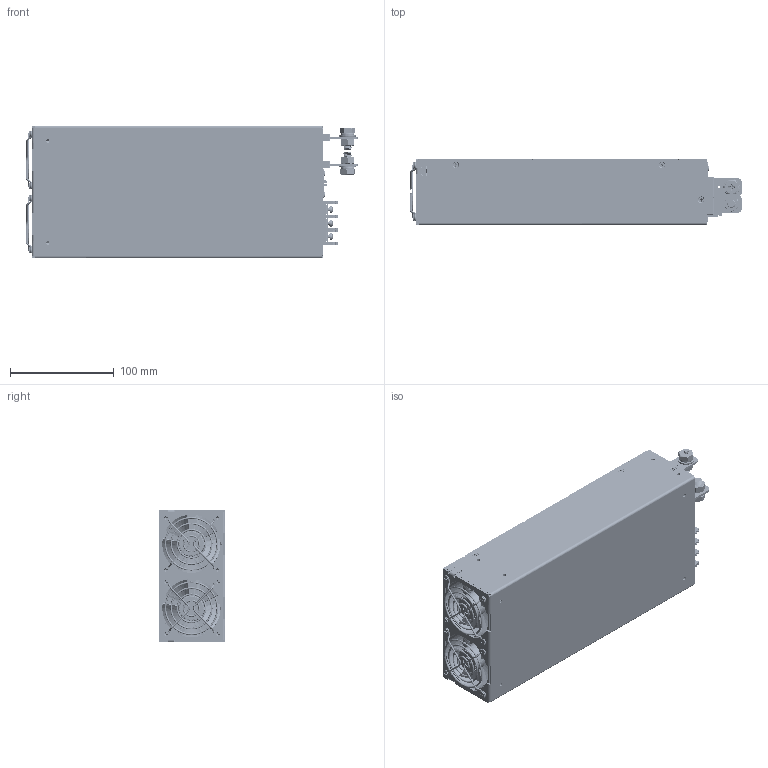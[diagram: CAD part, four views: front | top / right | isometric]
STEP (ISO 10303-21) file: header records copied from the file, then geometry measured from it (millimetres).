
FILE_DESCRIPTION (( 'STEP AP214' ), '1' );
FILE_NAME ('HDA1500 LV PMB.STEP', '2024-11-25T10:01:15', ( '' ), ( '' ), 'SwSTEP 2.0', 'SolidWorks 2022', '' );
FILE_SCHEMA (( 'AUTOMOTIVE_DESIGN' ));
Length unit declared in the file: millimetre
Products named in the file (42): 60x60x25^BOTTOM ASM_ASM 06_ASM 07_HDA1500 LV PMB XP_241001_1; BOTTOM ASM^ASM 06_ASM 07_HDA1500 LV PMB XP_241001_1; PART 03^ASM 04_ASM 07_HDA1500 LV PMB XP_241001_1; PART 18^ASM 05_ASM 06_ASM 07_HDA1500 LV PMB XP_241001_1; 256.2x380.1x0.25^BOTTOM ASM_ASM 06_ASM 07_HDA1500 LV PMB XP_241001_1; PART 04^ASM 04_ASM 07_HDA1500 LV PMB XP_241001_1; PART 11^ASM 06_ASM 07_HDA1500 LV PMB XP_241001_1; ASM 06^ASM 07_HDA1500 LV PMB XP_241001_1; HDA1500 LV PMB; ASM 07^HDA1500 LV PMB XP_241001_1; SCREW 3x4 02^ASM 06_ASM 07_HDA1500 LV PMB XP_241001_1; PART 19^ASM 05_ASM 06_ASM 07_HDA1500 LV PMB XP_241001_1; ASM 04^ASM 07_HDA1500 LV PMB XP_241001_1; SCREW 5x10^BOTTOM ASM_ASM 06_ASM 07_HDA1500 LV PMB XP_241001_1; ASM 01^ASM 02_ASM 03_ASM 04_ASM 07_HDA1500 LV PMB XP_241001_1; PART 13^ASM 06_ASM 07_HDA1500 LV PMB XP_241001_1; PART 05^ASM 03_ASM 04_ASM 07_HDA1500 LV PMB XP_241001_1; TOP ASM^ASM 06_ASM 07_HDA1500 LV PMB XP_241001_1; PART 02^ASM 07_HDA1500 LV PMB XP_241001_1; PART 17^ASM 05_ASM 06_ASM 07_HDA1500 LV PMB XP_241001_1; PART 09^ASM 01_ASM 02_ASM 03_ASM 04_ASM 07_HDA1500 LV PMB XP_241001_1; FG-06^BOTTOM ASM_ASM 06_ASM 07_HDA1500 LV PMB XP_241001_1; ASM 02^ASM 03_ASM 04_ASM 07_HDA1500 LV PMB XP_241001_1; BOTTOM^BOTTOM ASM_ASM 06_ASM 07_HDA1500 LV PMB XP_241001_1; ASM 03^ASM 04_ASM 07_HDA1500 LV PMB XP_241001_1; PART 15^ASM 05_ASM 06_ASM 07_HDA1500 LV PMB XP_241001_1; PART 01^ASM 07_HDA1500 LV PMB XP_241001_1; 250x122x0.8^BOTTOM ASM_ASM 06_ASM 07_HDA1500 LV PMB XP_241001_1; SCREW3x4^ASM 04_ASM 07_HDA1500 LV PMB XP_241001_1; HDA1500 LV PMB XP_241001_1; PART 12^ASM 06_ASM 07_HDA1500 LV PMB XP_241001_1; SCREW M3x6^ASM 07_HDA1500 LV PMB XP_241001_1; PART 16^ASM 05_ASM 06_ASM 07_HDA1500 LV PMB XP_241001_1; PART 10^ASM 01_ASM 02_ASM 03_ASM 04_ASM 07_HDA1500 LV PMB XP_241001_1; PART 14^ASM 06_ASM 07_HDA1500 LV PMB XP_241001_1; PART 06^ASM 03_ASM 04_ASM 07_HDA1500 LV PMB XP_241001_1; 250x121x0.25^TOP ASM_ASM 06_ASM 07_HDA1500 LV PMB XP_241001_1; PART 08^ASM 02_ASM 03_ASM 04_ASM 07_HDA1500 LV PMB XP_241001_1; PART 07^ASM 02_ASM 03_ASM 04_ASM 07_HDA1500 LV PMB XP_241001_1; SCREW 3x6^ASM 06_ASM 07_HDA1500 LV PMB XP_241001_1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
Assembly tree (67 placements, depth 8):
  HDA1500 LV PMB
    HDA1500 LV PMB XP_241001_1
      ASM 07^HDA1500 LV PMB XP_241001_1
        ASM 06^ASM 07_HDA1500 LV PMB XP_241001_1
          BOTTOM ASM^ASM 06_ASM 07_HDA1500 LV PMB XP_241001_1
            BOTTOM^BOTTOM ASM_ASM 06_ASM 07_HDA1500 LV PMB XP_241001_1
            60x60x25^BOTTOM ASM_ASM 06_ASM 07_HDA1500 LV PMB XP_241001_1  x2
            FG-06^BOTTOM ASM_ASM 06_ASM 07_HDA1500 LV PMB XP_241001_1  x2
            SCREW 5x10^BOTTOM ASM_ASM 06_ASM 07_HDA1500 LV PMB XP_241001_1  x8
            256.2x380.1x0.25^BOTTOM ASM_ASM 06_ASM 07_HDA1500 LV PMB XP_241001_1
            250x122x0.8^BOTTOM ASM_ASM 06_ASM 07_HDA1500 LV PMB XP_241001_1
          ASM 05^ASM 06_ASM 07_HDA1500 LV PMB XP_241001_1
            PART 19^ASM 05_ASM 06_ASM 07_HDA1500 LV PMB XP_241001_1
            PART 18^ASM 05_ASM 06_ASM 07_HDA1500 LV PMB XP_241001_1
            PART 17^ASM 05_ASM 06_ASM 07_HDA1500 LV PMB XP_241001_1
            PART 16^ASM 05_ASM 06_ASM 07_HDA1500 LV PMB XP_241001_1
            PART 15^ASM 05_ASM 06_ASM 07_HDA1500 LV PMB XP_241001_1
          TOP ASM^ASM 06_ASM 07_HDA1500 LV PMB XP_241001_1
            TOP^TOP ASM_ASM 06_ASM 07_HDA1500 LV PMB XP_241001_1
            250x121x0.25^TOP ASM_ASM 06_ASM 07_HDA1500 LV PMB XP_241001_1
          PART 14^ASM 06_ASM 07_HDA1500 LV PMB XP_241001_1
          SCREW 3x6^ASM 06_ASM 07_HDA1500 LV PMB XP_241001_1  x5
          PART 13^ASM 06_ASM 07_HDA1500 LV PMB XP_241001_1  x2
          PART 11^ASM 06_ASM 07_HDA1500 LV PMB XP_241001_1  x2
          PART 12^ASM 06_ASM 07_HDA1500 LV PMB XP_241001_1  x2
          SCREW 3x4 02^ASM 06_ASM 07_HDA1500 LV PMB XP_241001_1  x6
        ASM 04^ASM 07_HDA1500 LV PMB XP_241001_1
          ASM 03^ASM 04_ASM 07_HDA1500 LV PMB XP_241001_1
            ASM 02^ASM 03_ASM 04_ASM 07_HDA1500 LV PMB XP_241001_1
              ASM 01^ASM 02_ASM 03_ASM 04_ASM 07_HDA1500 LV PMB XP_241001_1
                PART 10^ASM 01_ASM 02_ASM 03_ASM 04_ASM 07_HDA1500 LV PMB XP_241001_1
                PART 09^ASM 01_ASM 02_ASM 03_ASM 04_ASM 07_HDA1500 LV PMB XP_241001_1  x2
              PART 07^ASM 02_ASM 03_ASM 04_ASM 07_HDA1500 LV PMB XP_241001_1  x4
              PART 08^ASM 02_ASM 03_ASM 04_ASM 07_HDA1500 LV PMB XP_241001_1
            PART 06^ASM 03_ASM 04_ASM 07_HDA1500 LV PMB XP_241001_1
            PART 05^ASM 03_ASM 04_ASM 07_HDA1500 LV PMB XP_241001_1
          PART 04^ASM 04_ASM 07_HDA1500 LV PMB XP_241001_1
          PART 03^ASM 04_ASM 07_HDA1500 LV PMB XP_241001_1
          SCREW3x4^ASM 04_ASM 07_HDA1500 LV PMB XP_241001_1
        SCREW M3x6^ASM 07_HDA1500 LV PMB XP_241001_1  x2
        PART 02^ASM 07_HDA1500 LV PMB XP_241001_1
        PART 01^ASM 07_HDA1500 LV PMB XP_241001_1
Bounding box: 319.31 x 63.9 x 127.8 mm (x, y, z)
Volume: 387289.6 mm3; surface area: 709653.9 mm2
Topology: 98 solids, 98 shells, 7324 faces, 20184 edges, 13062 vertices
Faces by surface type: plane 3222, cylinder 3167, bspline 561, torus 268, cone 82, sphere 24
Entity records: 218074 total; most frequent: CARTESIAN_POINT 62824, ORIENTED_EDGE 31914, DIRECTION 31800, EDGE_CURVE 15957, AXIS2_PLACEMENT_3D 11110, VERTEX_POINT 10404, LINE 9580, VECTOR 9580
